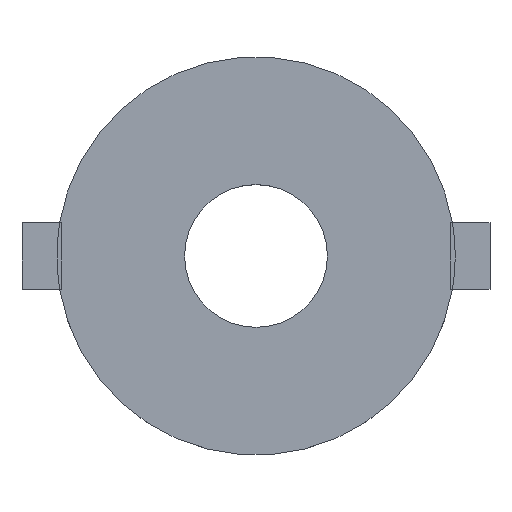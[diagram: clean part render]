
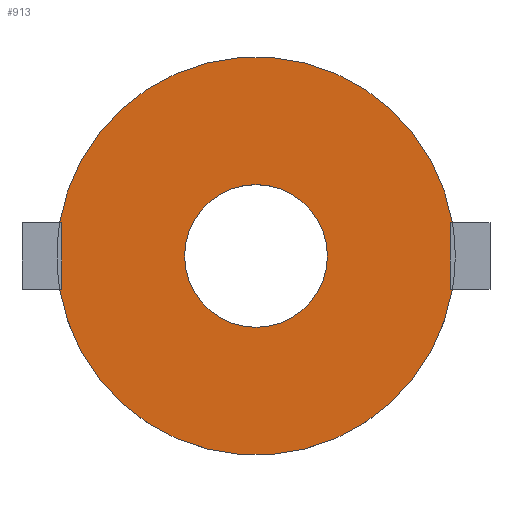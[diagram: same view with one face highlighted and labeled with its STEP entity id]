
A CAD part, top view. The second image highlights one B-rep face of the part: STEP entity #913.
In plain terms, the highlighted planar face has unit normal (0, 0, 1).
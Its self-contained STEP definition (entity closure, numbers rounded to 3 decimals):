
#201 = CYLINDRICAL_SURFACE('',#202,12.);
#202 = AXIS2_PLACEMENT_3D('',#203,#204,#205);
#203 = CARTESIAN_POINT('',(0.,0.,-6.1));
#204 = DIRECTION('',(0.,0.,1.));
#205 = DIRECTION('',(1.,0.,-0.));
#233 = CYLINDRICAL_SURFACE('',#234,12.);
#234 = AXIS2_PLACEMENT_3D('',#235,#236,#237);
#235 = CARTESIAN_POINT('',(0.,0.,-6.1));
#236 = DIRECTION('',(0.,0.,1.));
#237 = DIRECTION('',(1.,0.,-0.));
#444 = VERTEX_POINT('',#445);
#445 = CARTESIAN_POINT('',(11.832,-2.,-4.3));
#466 = EDGE_CURVE('',#467,#444,#469,.T.);
#467 = VERTEX_POINT('',#468);
#468 = CARTESIAN_POINT('',(-11.832,-2.,-4.3));
#469 = SURFACE_CURVE('',#470,(#475,#482),.PCURVE_S1.);
#470 = CIRCLE('',#471,12.);
#471 = AXIS2_PLACEMENT_3D('',#472,#473,#474);
#472 = CARTESIAN_POINT('',(0.,0.,-4.3));
#473 = DIRECTION('',(0.,0.,1.));
#474 = DIRECTION('',(1.,0.,-0.));
#475 = PCURVE('',#201,#476);
#476 = DEFINITIONAL_REPRESENTATION('',(#477),#481);
#477 = LINE('',#478,#479);
#478 = CARTESIAN_POINT('',(0.,1.8));
#479 = VECTOR('',#480,1.);
#480 = DIRECTION('',(1.,0.));
#481 = ( GEOMETRIC_REPRESENTATION_CONTEXT(2) 
PARAMETRIC_REPRESENTATION_CONTEXT() REPRESENTATION_CONTEXT('2D SPACE',''
  ) );
#482 = PCURVE('',#483,#488);
#483 = PLANE('',#484);
#484 = AXIS2_PLACEMENT_3D('',#485,#486,#487);
#485 = CARTESIAN_POINT('',(0.,0.,-4.3));
#486 = DIRECTION('',(0.,0.,1.));
#487 = DIRECTION('',(1.,0.,-0.));
#488 = DEFINITIONAL_REPRESENTATION('',(#489),#493);
#489 = CIRCLE('',#490,12.);
#490 = AXIS2_PLACEMENT_2D('',#491,#492);
#491 = CARTESIAN_POINT('',(0.,0.));
#492 = DIRECTION('',(1.,0.));
#493 = ( GEOMETRIC_REPRESENTATION_CONTEXT(2) 
PARAMETRIC_REPRESENTATION_CONTEXT() REPRESENTATION_CONTEXT('2D SPACE',''
  ) );
#525 = EDGE_CURVE('',#526,#528,#530,.T.);
#526 = VERTEX_POINT('',#527);
#527 = CARTESIAN_POINT('',(11.832,2.,-4.3));
#528 = VERTEX_POINT('',#529);
#529 = CARTESIAN_POINT('',(-11.832,2.,-4.3));
#530 = SURFACE_CURVE('',#531,(#536,#543),.PCURVE_S1.);
#531 = CIRCLE('',#532,12.);
#532 = AXIS2_PLACEMENT_3D('',#533,#534,#535);
#533 = CARTESIAN_POINT('',(0.,0.,-4.3));
#534 = DIRECTION('',(0.,0.,1.));
#535 = DIRECTION('',(1.,0.,-0.));
#536 = PCURVE('',#233,#537);
#537 = DEFINITIONAL_REPRESENTATION('',(#538),#542);
#538 = LINE('',#539,#540);
#539 = CARTESIAN_POINT('',(0.,1.8));
#540 = VECTOR('',#541,1.);
#541 = DIRECTION('',(1.,0.));
#542 = ( GEOMETRIC_REPRESENTATION_CONTEXT(2) 
PARAMETRIC_REPRESENTATION_CONTEXT() REPRESENTATION_CONTEXT('2D SPACE',''
  ) );
#543 = PCURVE('',#483,#544);
#544 = DEFINITIONAL_REPRESENTATION('',(#545),#549);
#545 = CIRCLE('',#546,12.);
#546 = AXIS2_PLACEMENT_2D('',#547,#548);
#547 = CARTESIAN_POINT('',(0.,0.));
#548 = DIRECTION('',(1.,0.));
#549 = ( GEOMETRIC_REPRESENTATION_CONTEXT(2) 
PARAMETRIC_REPRESENTATION_CONTEXT() REPRESENTATION_CONTEXT('2D SPACE',''
  ) );
#913 = ADVANCED_FACE('',(#914,#1062),#483,.T.);
#914 = FACE_BOUND('',#915,.T.);
#915 = EDGE_LOOP('',(#916,#944,#945,#973,#996,#1017,#1018,#1041));
#916 = ORIENTED_EDGE('',*,*,#917,.F.);
#917 = EDGE_CURVE('',#467,#918,#920,.T.);
#918 = VERTEX_POINT('',#919);
#919 = CARTESIAN_POINT('',(-11.7,-2.,-4.3));
#920 = SURFACE_CURVE('',#921,(#925,#932),.PCURVE_S1.);
#921 = LINE('',#922,#923);
#922 = CARTESIAN_POINT('',(-14.1,-2.,-4.3));
#923 = VECTOR('',#924,1.);
#924 = DIRECTION('',(1.,0.,0.));
#925 = PCURVE('',#483,#926);
#926 = DEFINITIONAL_REPRESENTATION('',(#927),#931);
#927 = LINE('',#928,#929);
#928 = CARTESIAN_POINT('',(-14.1,-2.));
#929 = VECTOR('',#930,1.);
#930 = DIRECTION('',(1.,0.));
#931 = ( GEOMETRIC_REPRESENTATION_CONTEXT(2) 
PARAMETRIC_REPRESENTATION_CONTEXT() REPRESENTATION_CONTEXT('2D SPACE',''
  ) );
#932 = PCURVE('',#933,#938);
#933 = PLANE('',#934);
#934 = AXIS2_PLACEMENT_3D('',#935,#936,#937);
#935 = CARTESIAN_POINT('',(0.,0.,-4.3));
#936 = DIRECTION('',(0.,0.,1.));
#937 = DIRECTION('',(1.,0.,-0.));
#938 = DEFINITIONAL_REPRESENTATION('',(#939),#943);
#939 = LINE('',#940,#941);
#940 = CARTESIAN_POINT('',(-14.1,-2.));
#941 = VECTOR('',#942,1.);
#942 = DIRECTION('',(1.,0.));
#943 = ( GEOMETRIC_REPRESENTATION_CONTEXT(2) 
PARAMETRIC_REPRESENTATION_CONTEXT() REPRESENTATION_CONTEXT('2D SPACE',''
  ) );
#944 = ORIENTED_EDGE('',*,*,#466,.T.);
#945 = ORIENTED_EDGE('',*,*,#946,.F.);
#946 = EDGE_CURVE('',#947,#444,#949,.T.);
#947 = VERTEX_POINT('',#948);
#948 = CARTESIAN_POINT('',(11.7,-2.,-4.3));
#949 = SURFACE_CURVE('',#950,(#954,#961),.PCURVE_S1.);
#950 = LINE('',#951,#952);
#951 = CARTESIAN_POINT('',(11.7,-2.,-4.3));
#952 = VECTOR('',#953,1.);
#953 = DIRECTION('',(1.,0.,0.));
#954 = PCURVE('',#483,#955);
#955 = DEFINITIONAL_REPRESENTATION('',(#956),#960);
#956 = LINE('',#957,#958);
#957 = CARTESIAN_POINT('',(11.7,-2.));
#958 = VECTOR('',#959,1.);
#959 = DIRECTION('',(1.,0.));
#960 = ( GEOMETRIC_REPRESENTATION_CONTEXT(2) 
PARAMETRIC_REPRESENTATION_CONTEXT() REPRESENTATION_CONTEXT('2D SPACE',''
  ) );
#961 = PCURVE('',#962,#967);
#962 = PLANE('',#963);
#963 = AXIS2_PLACEMENT_3D('',#964,#965,#966);
#964 = CARTESIAN_POINT('',(0.,0.,-4.3));
#965 = DIRECTION('',(0.,0.,1.));
#966 = DIRECTION('',(1.,0.,-0.));
#967 = DEFINITIONAL_REPRESENTATION('',(#968),#972);
#968 = LINE('',#969,#970);
#969 = CARTESIAN_POINT('',(11.7,-2.));
#970 = VECTOR('',#971,1.);
#971 = DIRECTION('',(1.,0.));
#972 = ( GEOMETRIC_REPRESENTATION_CONTEXT(2) 
PARAMETRIC_REPRESENTATION_CONTEXT() REPRESENTATION_CONTEXT('2D SPACE',''
  ) );
#973 = ORIENTED_EDGE('',*,*,#974,.T.);
#974 = EDGE_CURVE('',#947,#975,#977,.T.);
#975 = VERTEX_POINT('',#976);
#976 = CARTESIAN_POINT('',(11.7,2.,-4.3));
#977 = SURFACE_CURVE('',#978,(#982,#989),.PCURVE_S1.);
#978 = LINE('',#979,#980);
#979 = CARTESIAN_POINT('',(11.7,-2.,-4.3));
#980 = VECTOR('',#981,1.);
#981 = DIRECTION('',(0.,1.,0.));
#982 = PCURVE('',#483,#983);
#983 = DEFINITIONAL_REPRESENTATION('',(#984),#988);
#984 = LINE('',#985,#986);
#985 = CARTESIAN_POINT('',(11.7,-2.));
#986 = VECTOR('',#987,1.);
#987 = DIRECTION('',(0.,1.));
#988 = ( GEOMETRIC_REPRESENTATION_CONTEXT(2) 
PARAMETRIC_REPRESENTATION_CONTEXT() REPRESENTATION_CONTEXT('2D SPACE',''
  ) );
#989 = PCURVE('',#962,#990);
#990 = DEFINITIONAL_REPRESENTATION('',(#991),#995);
#991 = LINE('',#992,#993);
#992 = CARTESIAN_POINT('',(11.7,-2.));
#993 = VECTOR('',#994,1.);
#994 = DIRECTION('',(0.,1.));
#995 = ( GEOMETRIC_REPRESENTATION_CONTEXT(2) 
PARAMETRIC_REPRESENTATION_CONTEXT() REPRESENTATION_CONTEXT('2D SPACE',''
  ) );
#996 = ORIENTED_EDGE('',*,*,#997,.T.);
#997 = EDGE_CURVE('',#975,#526,#998,.T.);
#998 = SURFACE_CURVE('',#999,(#1003,#1010),.PCURVE_S1.);
#999 = LINE('',#1000,#1001);
#1000 = CARTESIAN_POINT('',(11.7,2.,-4.3));
#1001 = VECTOR('',#1002,1.);
#1002 = DIRECTION('',(1.,0.,0.));
#1003 = PCURVE('',#483,#1004);
#1004 = DEFINITIONAL_REPRESENTATION('',(#1005),#1009);
#1005 = LINE('',#1006,#1007);
#1006 = CARTESIAN_POINT('',(11.7,2.));
#1007 = VECTOR('',#1008,1.);
#1008 = DIRECTION('',(1.,0.));
#1009 = ( GEOMETRIC_REPRESENTATION_CONTEXT(2) 
PARAMETRIC_REPRESENTATION_CONTEXT() REPRESENTATION_CONTEXT('2D SPACE',''
  ) );
#1010 = PCURVE('',#962,#1011);
#1011 = DEFINITIONAL_REPRESENTATION('',(#1012),#1016);
#1012 = LINE('',#1013,#1014);
#1013 = CARTESIAN_POINT('',(11.7,2.));
#1014 = VECTOR('',#1015,1.);
#1015 = DIRECTION('',(1.,0.));
#1016 = ( GEOMETRIC_REPRESENTATION_CONTEXT(2) 
PARAMETRIC_REPRESENTATION_CONTEXT() REPRESENTATION_CONTEXT('2D SPACE',''
  ) );
#1017 = ORIENTED_EDGE('',*,*,#525,.T.);
#1018 = ORIENTED_EDGE('',*,*,#1019,.T.);
#1019 = EDGE_CURVE('',#528,#1020,#1022,.T.);
#1020 = VERTEX_POINT('',#1021);
#1021 = CARTESIAN_POINT('',(-11.7,2.,-4.3));
#1022 = SURFACE_CURVE('',#1023,(#1027,#1034),.PCURVE_S1.);
#1023 = LINE('',#1024,#1025);
#1024 = CARTESIAN_POINT('',(-14.1,2.,-4.3));
#1025 = VECTOR('',#1026,1.);
#1026 = DIRECTION('',(1.,0.,0.));
#1027 = PCURVE('',#483,#1028);
#1028 = DEFINITIONAL_REPRESENTATION('',(#1029),#1033);
#1029 = LINE('',#1030,#1031);
#1030 = CARTESIAN_POINT('',(-14.1,2.));
#1031 = VECTOR('',#1032,1.);
#1032 = DIRECTION('',(1.,0.));
#1033 = ( GEOMETRIC_REPRESENTATION_CONTEXT(2) 
PARAMETRIC_REPRESENTATION_CONTEXT() REPRESENTATION_CONTEXT('2D SPACE',''
  ) );
#1034 = PCURVE('',#933,#1035);
#1035 = DEFINITIONAL_REPRESENTATION('',(#1036),#1040);
#1036 = LINE('',#1037,#1038);
#1037 = CARTESIAN_POINT('',(-14.1,2.));
#1038 = VECTOR('',#1039,1.);
#1039 = DIRECTION('',(1.,0.));
#1040 = ( GEOMETRIC_REPRESENTATION_CONTEXT(2) 
PARAMETRIC_REPRESENTATION_CONTEXT() REPRESENTATION_CONTEXT('2D SPACE',''
  ) );
#1041 = ORIENTED_EDGE('',*,*,#1042,.F.);
#1042 = EDGE_CURVE('',#918,#1020,#1043,.T.);
#1043 = SURFACE_CURVE('',#1044,(#1048,#1055),.PCURVE_S1.);
#1044 = LINE('',#1045,#1046);
#1045 = CARTESIAN_POINT('',(-11.7,-2.,-4.3));
#1046 = VECTOR('',#1047,1.);
#1047 = DIRECTION('',(0.,1.,0.));
#1048 = PCURVE('',#483,#1049);
#1049 = DEFINITIONAL_REPRESENTATION('',(#1050),#1054);
#1050 = LINE('',#1051,#1052);
#1051 = CARTESIAN_POINT('',(-11.7,-2.));
#1052 = VECTOR('',#1053,1.);
#1053 = DIRECTION('',(0.,1.));
#1054 = ( GEOMETRIC_REPRESENTATION_CONTEXT(2) 
PARAMETRIC_REPRESENTATION_CONTEXT() REPRESENTATION_CONTEXT('2D SPACE',''
  ) );
#1055 = PCURVE('',#933,#1056);
#1056 = DEFINITIONAL_REPRESENTATION('',(#1057),#1061);
#1057 = LINE('',#1058,#1059);
#1058 = CARTESIAN_POINT('',(-11.7,-2.));
#1059 = VECTOR('',#1060,1.);
#1060 = DIRECTION('',(0.,1.));
#1061 = ( GEOMETRIC_REPRESENTATION_CONTEXT(2) 
PARAMETRIC_REPRESENTATION_CONTEXT() REPRESENTATION_CONTEXT('2D SPACE',''
  ) );
#1062 = FACE_BOUND('',#1063,.T.);
#1063 = EDGE_LOOP('',(#1064));
#1064 = ORIENTED_EDGE('',*,*,#1065,.F.);
#1065 = EDGE_CURVE('',#1066,#1066,#1068,.T.);
#1066 = VERTEX_POINT('',#1067);
#1067 = CARTESIAN_POINT('',(4.3,0.,-4.3));
#1068 = SURFACE_CURVE('',#1069,(#1074,#1081),.PCURVE_S1.);
#1069 = CIRCLE('',#1070,4.3);
#1070 = AXIS2_PLACEMENT_3D('',#1071,#1072,#1073);
#1071 = CARTESIAN_POINT('',(0.,0.,-4.3));
#1072 = DIRECTION('',(0.,0.,1.));
#1073 = DIRECTION('',(1.,0.,-0.));
#1074 = PCURVE('',#483,#1075);
#1075 = DEFINITIONAL_REPRESENTATION('',(#1076),#1080);
#1076 = CIRCLE('',#1077,4.3);
#1077 = AXIS2_PLACEMENT_2D('',#1078,#1079);
#1078 = CARTESIAN_POINT('',(0.,0.));
#1079 = DIRECTION('',(1.,0.));
#1080 = ( GEOMETRIC_REPRESENTATION_CONTEXT(2) 
PARAMETRIC_REPRESENTATION_CONTEXT() REPRESENTATION_CONTEXT('2D SPACE',''
  ) );
#1081 = PCURVE('',#1082,#1087);
#1082 = CYLINDRICAL_SURFACE('',#1083,4.3);
#1083 = AXIS2_PLACEMENT_3D('',#1084,#1085,#1086);
#1084 = CARTESIAN_POINT('',(0.,0.,-6.11));
#1085 = DIRECTION('',(0.,0.,1.));
#1086 = DIRECTION('',(1.,0.,-0.));
#1087 = DEFINITIONAL_REPRESENTATION('',(#1088),#1092);
#1088 = LINE('',#1089,#1090);
#1089 = CARTESIAN_POINT('',(0.,1.81));
#1090 = VECTOR('',#1091,1.);
#1091 = DIRECTION('',(1.,0.));
#1092 = ( GEOMETRIC_REPRESENTATION_CONTEXT(2) 
PARAMETRIC_REPRESENTATION_CONTEXT() REPRESENTATION_CONTEXT('2D SPACE',''
  ) );
